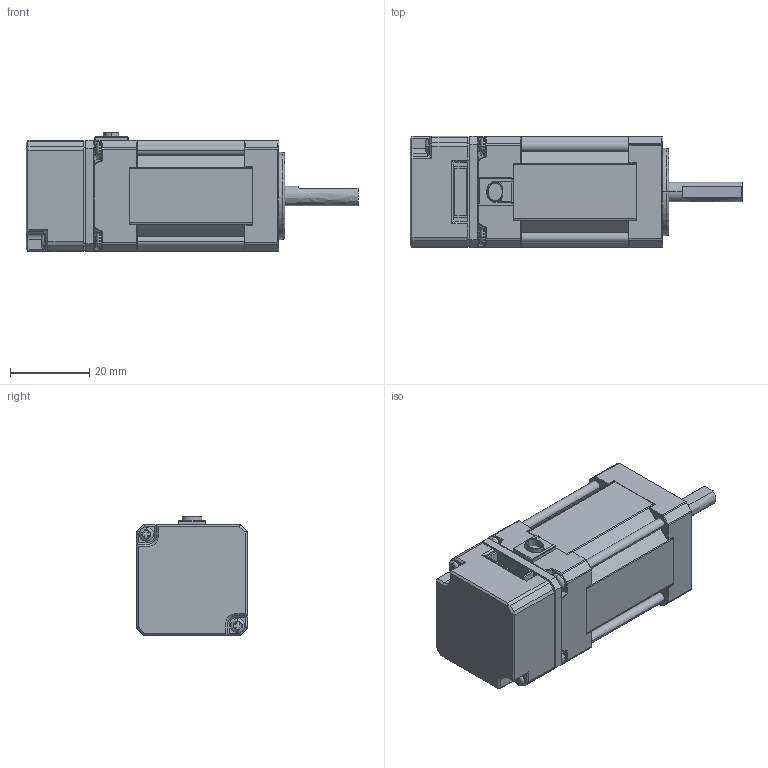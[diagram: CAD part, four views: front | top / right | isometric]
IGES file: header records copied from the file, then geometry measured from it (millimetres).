
Start section: IMSI TurboCAD v14.0
Global section: author: NULL; organization: NULL; date: 20110920.173235; units: millimetre
Bounding box: 83.55 x 28 x 30 mm (x, y, z)
Surface area: 17841.7 mm2 (no closed solid volume)
Topology: 0 solids, 0 shells, 1086 faces, 5372 edges, 5320 vertices
Faces by surface type: revolution 496, extrusion 457, bspline 133
